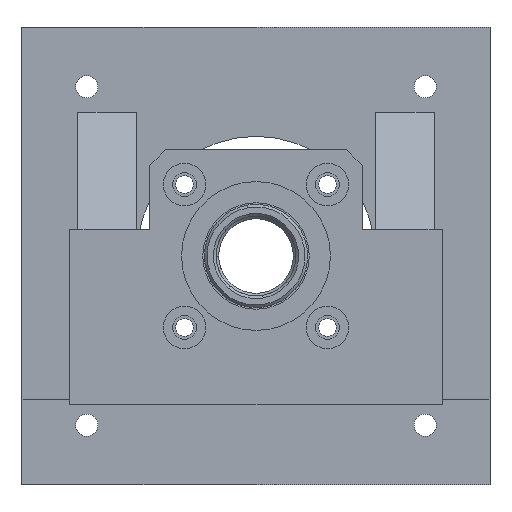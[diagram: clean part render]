
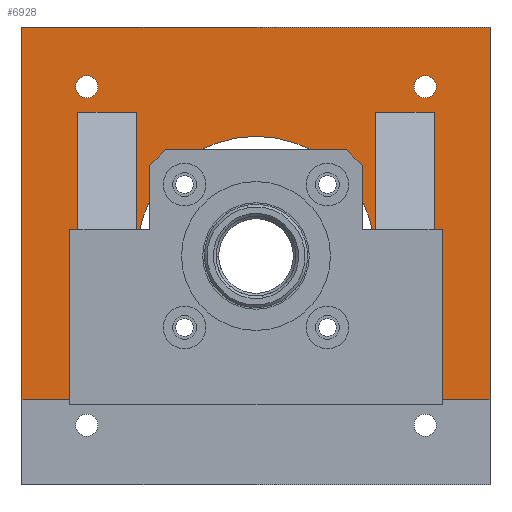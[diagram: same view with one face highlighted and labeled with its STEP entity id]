
A CAD part, left-side view. The second image highlights one B-rep face of the part: STEP entity #6928.
In plain terms, the highlighted planar face has unit normal (-1, 0, 0).
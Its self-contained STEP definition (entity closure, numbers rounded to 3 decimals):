
#4391=CARTESIAN_POINT('',(96.,-31.82,59.82));
#4392=DIRECTION('',(1.,0.,0.));
#4393=DIRECTION('',(0.,0.,-1.));
#4394=AXIS2_PLACEMENT_3D('',#4391,#4392,#4393);
#4396=CARTESIAN_POINT('',(96.,-31.82,59.82));
#4397=DIRECTION('',(1.,0.,0.));
#4398=DIRECTION('',(0.,0.,1.));
#4399=AXIS2_PLACEMENT_3D('',#4396,#4397,#4398);
#4401=CARTESIAN_POINT('',(96.,31.82,59.82));
#4402=DIRECTION('',(1.,0.,0.));
#4403=DIRECTION('',(0.,0.,-1.));
#4404=AXIS2_PLACEMENT_3D('',#4401,#4402,#4403);
#4406=CARTESIAN_POINT('',(96.,31.82,59.82));
#4407=DIRECTION('',(1.,0.,0.));
#4408=DIRECTION('',(0.,0.,1.));
#4409=AXIS2_PLACEMENT_3D('',#4406,#4407,#4408);
#4411=CARTESIAN_POINT('',(96.,0.,28.));
#4412=DIRECTION('',(1.,0.,0.));
#4413=DIRECTION('',(0.,1.,0.));
#4414=AXIS2_PLACEMENT_3D('',#4411,#4412,#4413);
#4416=DIRECTION('',(0.,0.,-1.));
#4417=VECTOR('',#4416,27.);
#4418=CARTESIAN_POINT('',(96.,22.5,55.));
#4419=LINE('',#4418,#4417);
#4420=DIRECTION('',(0.,-1.,0.));
#4421=VECTOR('',#4420,11.);
#4422=CARTESIAN_POINT('',(96.,33.5,55.));
#4423=LINE('',#4422,#4421);
#4424=DIRECTION('',(0.,-1.,0.));
#4425=VECTOR('',#4424,10.5);
#4426=CARTESIAN_POINT('',(96.,44.,1.));
#4427=LINE('',#4426,#4425);
#4428=DIRECTION('',(0.,0.,-1.));
#4429=VECTOR('',#4428,70.);
#4430=CARTESIAN_POINT('',(96.,44.,71.));
#4431=LINE('',#4430,#4429);
#4432=DIRECTION('',(0.,0.,1.));
#4433=VECTOR('',#4432,70.);
#4434=CARTESIAN_POINT('',(96.,-44.,1.));
#4435=LINE('',#4434,#4433);
#4436=DIRECTION('',(0.,-1.,0.));
#4437=VECTOR('',#4436,10.5);
#4438=CARTESIAN_POINT('',(96.,-33.5,1.));
#4439=LINE('',#4438,#4437);
#4440=DIRECTION('',(0.,0.,-1.));
#4441=VECTOR('',#4440,54.);
#4442=CARTESIAN_POINT('',(96.,-33.5,55.));
#4443=LINE('',#4442,#4441);
#4444=DIRECTION('',(0.,0.,1.));
#4445=VECTOR('',#4444,27.);
#4446=CARTESIAN_POINT('',(96.,-22.5,28.));
#4447=LINE('',#4446,#4445);
#4448=CARTESIAN_POINT('',(96.,0.,28.));
#4449=DIRECTION('',(1.,0.,0.));
#4450=DIRECTION('',(0.,0.,1.));
#4451=AXIS2_PLACEMENT_3D('',#4448,#4449,#4450);
#4639=DIRECTION('',(0.,-1.,0.));
#4640=VECTOR('',#4639,88.);
#4641=CARTESIAN_POINT('',(96.,44.,71.));
#4642=LINE('',#4641,#4640);
#4703=DIRECTION('',(0.,0.,-1.));
#4704=VECTOR('',#4703,54.);
#4705=CARTESIAN_POINT('',(96.,33.5,55.));
#4706=LINE('',#4705,#4704);
#5066=DIRECTION('',(0.,1.,0.));
#5067=VECTOR('',#5066,11.);
#5068=CARTESIAN_POINT('',(96.,-33.5,55.));
#5069=LINE('',#5068,#5067);
#5271=CARTESIAN_POINT('',(96.,-22.5,28.));
#5272=CARTESIAN_POINT('',(96.,-22.5,55.));
#5273=VERTEX_POINT('',#5271);
#5274=VERTEX_POINT('',#5272);
#5275=CARTESIAN_POINT('',(96.,-33.5,55.));
#5276=VERTEX_POINT('',#5275);
#5277=CARTESIAN_POINT('',(96.,-33.5,1.));
#5278=VERTEX_POINT('',#5277);
#5279=CARTESIAN_POINT('',(96.,-44.,1.));
#5280=VERTEX_POINT('',#5279);
#5281=CARTESIAN_POINT('',(96.,-44.,71.));
#5282=VERTEX_POINT('',#5281);
#5283=CARTESIAN_POINT('',(96.,44.,71.));
#5284=VERTEX_POINT('',#5283);
#5285=CARTESIAN_POINT('',(96.,44.,1.));
#5286=VERTEX_POINT('',#5285);
#5287=CARTESIAN_POINT('',(96.,33.5,1.));
#5288=VERTEX_POINT('',#5287);
#5289=CARTESIAN_POINT('',(96.,33.5,55.));
#5290=VERTEX_POINT('',#5289);
#5291=CARTESIAN_POINT('',(96.,22.5,55.));
#5292=VERTEX_POINT('',#5291);
#5293=CARTESIAN_POINT('',(96.,22.5,28.));
#5294=VERTEX_POINT('',#5293);
#5383=CARTESIAN_POINT('',(96.,0.,50.5));
#5385=VERTEX_POINT('',#5383);
#5468=CARTESIAN_POINT('',(96.,-31.82,57.72));
#5470=VERTEX_POINT('',#5468);
#5472=CARTESIAN_POINT('',(96.,-31.82,61.92));
#5474=VERTEX_POINT('',#5472);
#5492=CARTESIAN_POINT('',(96.,31.82,57.72));
#5494=VERTEX_POINT('',#5492);
#5496=CARTESIAN_POINT('',(96.,31.82,61.92));
#5498=VERTEX_POINT('',#5496);
#6889=CARTESIAN_POINT('',(96.,0.,0.));
#6890=DIRECTION('',(1.,0.,0.));
#6891=DIRECTION('',(0.,0.,-1.));
#6892=AXIS2_PLACEMENT_3D('',#6889,#6890,#6891);
#6893=PLANE('',#6892);
#6895=ORIENTED_EDGE('',*,*,#6894,.F.);
#6896=ORIENTED_EDGE('',*,*,#5782,.F.);
#6898=ORIENTED_EDGE('',*,*,#6897,.F.);
#6900=ORIENTED_EDGE('',*,*,#6899,.T.);
#6901=ORIENTED_EDGE('',*,*,#6825,.F.);
#6903=ORIENTED_EDGE('',*,*,#6902,.F.);
#6905=ORIENTED_EDGE('',*,*,#6904,.T.);
#6906=ORIENTED_EDGE('',*,*,#6878,.F.);
#6907=ORIENTED_EDGE('',*,*,#6837,.F.);
#6908=ORIENTED_EDGE('',*,*,#6811,.F.);
#6910=ORIENTED_EDGE('',*,*,#6909,.T.);
#6911=ORIENTED_EDGE('',*,*,#6738,.F.);
#6913=ORIENTED_EDGE('',*,*,#6912,.F.);
#6914=EDGE_LOOP('',(#6895,#6896,#6898,#6900,#6901,#6903,#6905,#6906,#6907,#6908,
#6910,#6911,#6913));
#6915=FACE_OUTER_BOUND('',#6914,.F.);
#6917=ORIENTED_EDGE('',*,*,#6916,.F.);
#6919=ORIENTED_EDGE('',*,*,#6918,.F.);
#6920=EDGE_LOOP('',(#6917,#6919));
#6921=FACE_BOUND('',#6920,.F.);
#6923=ORIENTED_EDGE('',*,*,#6922,.F.);
#6925=ORIENTED_EDGE('',*,*,#6924,.F.);
#6926=EDGE_LOOP('',(#6923,#6925));
#6927=FACE_BOUND('',#6926,.F.);
#4395=CIRCLE('',#4394,2.1);
#4400=CIRCLE('',#4399,2.1);
#4405=CIRCLE('',#4404,2.1);
#4410=CIRCLE('',#4409,2.1);
#4415=CIRCLE('',#4414,22.5);
#4452=CIRCLE('',#4451,22.5);
#5782=EDGE_CURVE('',#5292,#5294,#4419,.T.);
#6738=EDGE_CURVE('',#5273,#5274,#4447,.T.);
#6811=EDGE_CURVE('',#5276,#5278,#4443,.T.);
#6825=EDGE_CURVE('',#5286,#5288,#4427,.T.);
#6837=EDGE_CURVE('',#5278,#5280,#4439,.T.);
#6878=EDGE_CURVE('',#5280,#5282,#4435,.T.);
#6894=EDGE_CURVE('',#5294,#5385,#4415,.T.);
#6897=EDGE_CURVE('',#5290,#5292,#4423,.T.);
#6899=EDGE_CURVE('',#5290,#5288,#4706,.T.);
#6902=EDGE_CURVE('',#5284,#5286,#4431,.T.);
#6904=EDGE_CURVE('',#5284,#5282,#4642,.T.);
#6909=EDGE_CURVE('',#5276,#5274,#5069,.T.);
#6912=EDGE_CURVE('',#5385,#5273,#4452,.T.);
#6916=EDGE_CURVE('',#5494,#5498,#4405,.T.);
#6918=EDGE_CURVE('',#5498,#5494,#4410,.T.);
#6922=EDGE_CURVE('',#5470,#5474,#4395,.T.);
#6924=EDGE_CURVE('',#5474,#5470,#4400,.T.);
#6928=ADVANCED_FACE('',(#6915,#6921,#6927),#6893,.F.);
